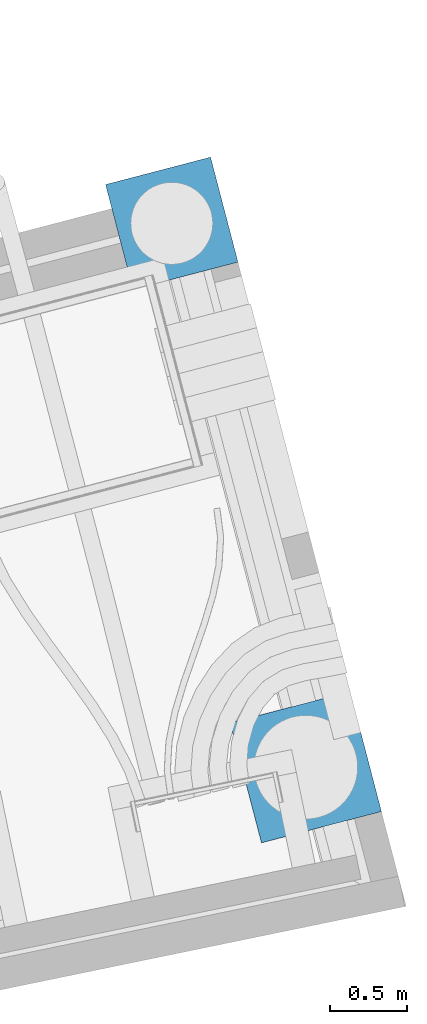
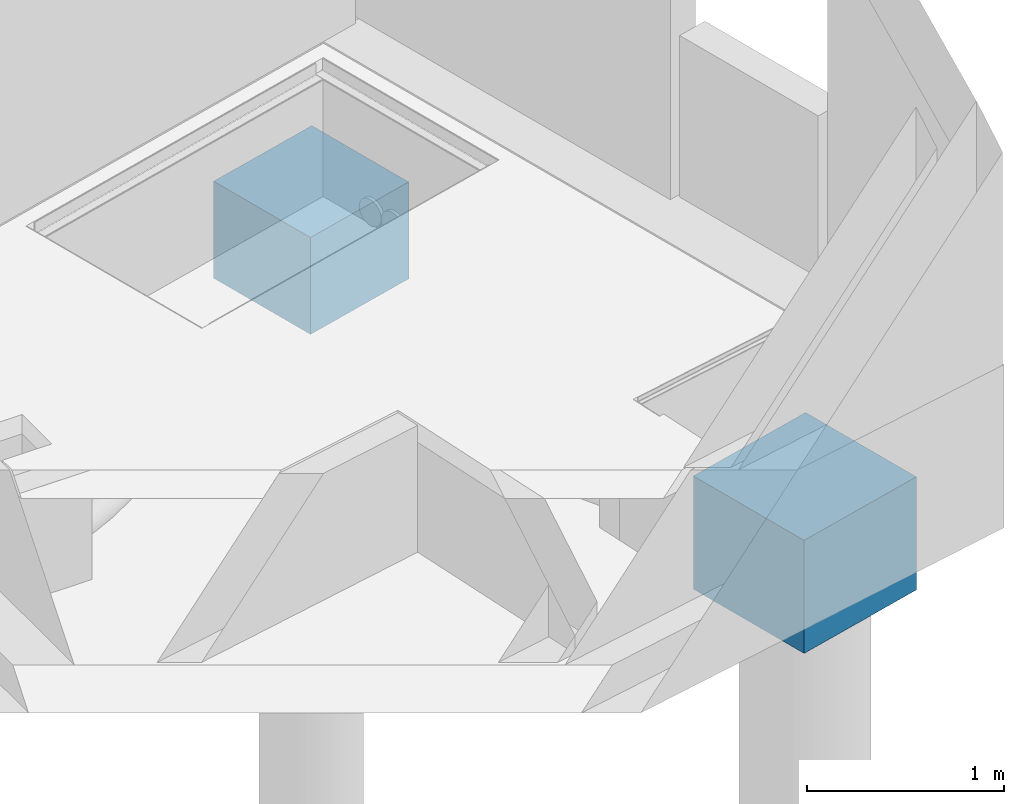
# One storey, part 13 of 29: 2 slabs.
"""IFC2X3 building model written with IfcOpenShell, lengths in centimetres."""

from ifc_helpers import new_model, entity, si_unit, converted_unit, derived_unit, direction, frame, origin, place, context, subcontext, project, spatial, faceted_brep, material, element, save


model = new_model("IFC2X3")

# Units and contexts
model_context = context("Model", 3, precision=0.001, world=origin(), true_north=direction((6.12303176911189e-17, 1.0)))
body_context = subcontext(model_context, "Body", "Model", "MODEL_VIEW")
ifc_project = project(units=[si_unit("LENGTHUNIT", "METRE", prefix="CENTI"), si_unit("AREAUNIT", "SQUARE_METRE"), si_unit("VOLUMEUNIT", "CUBIC_METRE"), converted_unit("PLANEANGLEUNIT", "DEGREE", entity("IfcRatioMeasure", 0.0174532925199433), si_unit("PLANEANGLEUNIT", "RADIAN"), dimensions=[0, 0, 0, 0, 0, 0, 0]), si_unit("MASSUNIT", "GRAM", prefix="KILO"), derived_unit("MASSDENSITYUNIT", [(si_unit("MASSUNIT", "GRAM", prefix="KILO"), 1), (si_unit("LENGTHUNIT", "METRE"), -3)]), si_unit("TIMEUNIT", "SECOND"), si_unit("FREQUENCYUNIT", "HERTZ"), si_unit("THERMODYNAMICTEMPERATUREUNIT", "DEGREE_CELSIUS"), derived_unit("THERMALTRANSMITTANCEUNIT", [(si_unit("MASSUNIT", "GRAM", prefix="KILO"), 1), (si_unit("THERMODYNAMICTEMPERATUREUNIT", "KELVIN"), -1), (si_unit("TIMEUNIT", "SECOND"), -3)]), derived_unit("VOLUMETRICFLOWRATEUNIT", [(si_unit("LENGTHUNIT", "METRE"), 3), (si_unit("TIMEUNIT", "SECOND"), -1)]), si_unit("ELECTRICCURRENTUNIT", "AMPERE"), si_unit("ELECTRICVOLTAGEUNIT", "VOLT"), si_unit("POWERUNIT", "WATT"), si_unit("FORCEUNIT", "NEWTON"), si_unit("ILLUMINANCEUNIT", "LUX"), si_unit("LUMINOUSFLUXUNIT", "LUMEN"), si_unit("LUMINOUSINTENSITYUNIT", "CANDELA"), derived_unit("USERDEFINED", [(si_unit("MASSUNIT", "GRAM", prefix="KILO"), -1), (si_unit("LENGTHUNIT", "METRE"), -2), (si_unit("TIMEUNIT", "SECOND"), 3), (si_unit("LUMINOUSFLUXUNIT", "LUMEN"), 1)]), derived_unit("LINEARVELOCITYUNIT", [(si_unit("LENGTHUNIT", "METRE"), 1), (si_unit("TIMEUNIT", "SECOND"), -1)]), si_unit("PRESSUREUNIT", "PASCAL"), derived_unit("USERDEFINED", [(si_unit("LENGTHUNIT", "METRE"), -2), (si_unit("MASSUNIT", "GRAM", prefix="KILO"), 1), (si_unit("TIMEUNIT", "SECOND"), -2)])], contexts=[model_context])

# Site, building, storey
site_placement = place(None, origin())
site = spatial("IfcSite", under=ifc_project, at=site_placement, Name="Default", CompositionType="ELEMENT")
building_placement = place(site_placement, origin())
building = spatial("IfcBuilding", under=site, at=building_placement, Name="CAGE 03", CompositionType="ELEMENT")
storey_placement = place(building_placement, frame((0.0, 0.0, -34.0)))
storey = spatial("IfcBuildingStorey", under=building, at=storey_placement, Name="+3.66", CompositionType="ELEMENT", Elevation=-34.0000000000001)

# Slabs
ifc_material = material(Name="Béton, C25/30")
slab_1_placement = place(storey_placement, frame((11535.6365583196, 3869.78541940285, -161.0)))
element("IfcSlab", 1, at=slab_1_placement, inside=storey, material=ifc_material, Name="M_Base-Rectangulaire:70x70x60ht", ObjectType="M_Base-Rectangulaire:70x70x60ht", PredefinedType="BASESLAB", context=body_context, shape_type="Brep", body=[
    faceted_brep([(67.7284989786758, 85.4160772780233, 60.0), (0.0, 67.7284989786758, 60.0), (17.6875782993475, 0.0, 60.0), (85.4160772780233, 17.6875782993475, 60.0), (71.7713740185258, 69.9352775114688, 60.0), (17.6875782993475, 0.0, 0.0), (24.976077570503, 23.0147007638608, 0.0), (30.1015689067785, 21.3493276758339, 0.0), (35.227060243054, 19.6839545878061, 0.0), (40.3525515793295, 18.0185814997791, 0.0), (45.478042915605, 16.3532084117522, 0.0), (85.4160772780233, 17.6875782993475, 0.0), (22.784067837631, 27.9380352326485, 0.0), (20.592058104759, 32.8613697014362, 0.0), (18.4000483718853, 37.7847041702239, 0.0), (16.2080386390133, 42.7080386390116, 0.0), (0.0, 67.7284989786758, 0.0), (18.7385634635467, 50.496193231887, 0.0), (21.2690882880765, 58.2843478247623, 0.0), (25.9363248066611, 60.9789780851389, 0.0), (30.6035613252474, 63.6736083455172, 0.0), (35.2707978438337, 66.3682386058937, 0.0), (39.93803436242, 69.0628688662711, 0.0), (67.7284989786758, 85.4160772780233, 0.0), (69.2080386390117, 42.7080386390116, 0.0), (67.0160289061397, 47.6313731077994, 0.0), (45.0635256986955, 67.3974957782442, 0.0), (50.189017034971, 65.7321226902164, 0.0), (55.3145083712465, 64.0667496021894, 0.0), (60.439999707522, 62.4013765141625, 0.0), (64.824019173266, 52.5547075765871, 0.0), (62.6320094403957, 57.4780420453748, 0.0), (50.1452794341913, 19.0478386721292, 0.0), (54.8125159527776, 21.7424689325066, 0.0), (59.4797524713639, 24.4370991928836, 0.0), (64.1469889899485, 27.131729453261, 0.0), (66.6775138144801, 34.9198840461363, 0.0), (16.2080386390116, 42.7080386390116, 5.0), (18.4000483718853, 47.6313731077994, 5.0), (20.5920581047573, 52.5547075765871, 5.0), (22.7840678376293, 57.4780420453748, 5.0), (24.9760775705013, 62.4013765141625, 5.0), (30.1015689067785, 64.0667496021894, 5.0), (35.227060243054, 65.7321226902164, 5.0), (40.3525515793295, 67.3974957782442, 5.0), (45.478042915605, 69.0628688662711, 5.0), (50.1452794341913, 66.3682386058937, 5.0), (54.8125159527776, 63.6736083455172, 5.0), (59.4797524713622, 60.9789780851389, 5.0), (64.1469889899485, 58.2843478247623, 5.0), (66.6775138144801, 50.496193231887, 5.0), (69.2080386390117, 42.7080386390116, 5.0), (67.0160289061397, 37.7847041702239, 5.0), (64.824019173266, 32.8613697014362, 5.0), (62.632009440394, 27.9380352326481, 5.0), (60.439999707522, 23.0147007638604, 5.0), (55.3145083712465, 21.3493276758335, 5.0), (50.189017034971, 19.6839545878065, 5.0), (45.0635256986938, 18.0185814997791, 5.0), (39.9380343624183, 16.3532084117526, 5.0), (35.2707978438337, 19.0478386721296, 5.0), (30.6035613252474, 21.742468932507, 5.0), (25.9363248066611, 24.437099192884, 5.0), (21.2690882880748, 27.131729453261, 5.0), (18.7385634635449, 34.9198840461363, 5.0)], [[[0, 1, 2, 3, 4]], [[5, 6, 7]], [[5, 7, 8]], [[5, 8, 9]], [[5, 9, 10]], [[5, 10, 11]], [[5, 12, 6]], [[5, 13, 12]], [[5, 14, 13]], [[5, 15, 14]], [[16, 15, 5]], [[16, 17, 15]], [[16, 18, 17]], [[16, 19, 18]], [[16, 20, 19]], [[16, 21, 20]], [[16, 22, 21]], [[23, 22, 16]], [[11, 24, 23]], [[23, 24, 25]], [[23, 26, 22]], [[23, 27, 26]], [[23, 28, 27]], [[23, 29, 28]], [[23, 25, 30]], [[23, 30, 31]], [[23, 31, 29]], [[11, 10, 32]], [[11, 32, 33]], [[11, 33, 34]], [[11, 34, 35]], [[11, 35, 36]], [[11, 36, 24]], [[2, 1, 16, 5]], [[3, 2, 5, 11]], [[4, 3, 11, 23, 0]], [[1, 0, 23, 16]], [[37, 38, 39, 40, 41, 42, 43, 44, 45, 46, 47, 48, 49, 50, 51, 52, 53, 54, 55, 56, 57, 58, 59, 60, 61, 62, 63, 64]], [[12, 13, 63]], [[64, 14, 37]], [[64, 63, 13]], [[63, 62, 12]], [[36, 35, 53]], [[60, 59, 8]], [[37, 14, 15]], [[33, 56, 34]], [[7, 6, 61]], [[35, 34, 55]], [[36, 52, 24]], [[8, 59, 9]], [[61, 6, 62]], [[13, 14, 64]], [[58, 9, 59]], [[62, 6, 12]], [[57, 56, 33]], [[7, 60, 8]], [[55, 34, 56]], [[54, 53, 35, 55]], [[58, 10, 9]], [[32, 10, 57, 33]], [[7, 61, 60]], [[51, 24, 52]], [[58, 57, 10]], [[36, 53, 52]], [[31, 30, 49]], [[50, 25, 51]], [[50, 49, 30]], [[49, 48, 31]], [[47, 29, 48]], [[46, 28, 47]], [[51, 25, 24]], [[22, 44, 21]], [[46, 45, 27]], [[40, 39, 18, 41]], [[17, 38, 15]], [[27, 45, 26]], [[30, 25, 50]], [[44, 22, 26]], [[48, 29, 31]], [[43, 42, 20]], [[28, 29, 47]], [[17, 18, 39]], [[46, 27, 28]], [[37, 15, 38]], [[43, 21, 44]], [[41, 19, 42]], [[20, 42, 19]], [[41, 18, 19]], [[44, 26, 45]], [[43, 20, 21]], [[17, 39, 38]]]),
])
slab_2_placement = place(storey_placement, frame((11616.0123316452, 3512.76273738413, -171.0)))
element("IfcSlab", 2, at=slab_2_placement, inside=storey, material=ifc_material, Name="M_Base-Rectangulaire:80x80x70ht", ObjectType="M_Base-Rectangulaire:80x80x70ht", PredefinedType="BASESLAB", context=body_context, shape_type="Brep", body=[
    faceted_brep([(77.4039988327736, 97.6183740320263, 70.0), (0.0, 77.4039988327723, 70.0), (20.2143751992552, 0.0, 70.0), (97.6183740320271, 20.2143751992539, 70.0), (20.2143751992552, 0.0, 0.0), (24.0523882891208, 26.2403829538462, 0.0), (31.0143354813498, 23.5433102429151, 0.0), (37.9762826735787, 20.8462375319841, 0.0), (44.938229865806, 18.149164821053, 0.0), (51.9001770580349, 15.452092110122, 0.0), (97.6183740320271, 20.2143751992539, 0.0), (21.8665879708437, 31.8825839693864, 0.0), (19.6807876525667, 37.5247849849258, 0.0), (17.4949873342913, 43.166986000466, 0.0), (15.3091870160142, 48.8091870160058, 0.0), (0.0, 77.4039988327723, 0.0), (17.4949873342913, 54.4513880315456, 0.0), (19.6807876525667, 60.0935890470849, 0.0), (21.8665879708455, 65.7357900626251, 0.0), (24.0523882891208, 71.3779910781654, 0.0), (29.4688404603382, 74.0750637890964, 0.0), (34.8852926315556, 76.7721365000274, 0.0), (40.3017448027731, 79.4692092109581, 0.0), (45.7181969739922, 82.1662819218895, 0.0), (77.4039988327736, 97.6183740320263, 0.0), (82.3091870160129, 48.8091870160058, 0.0), (80.1233866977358, 54.4513880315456, 0.0), (52.6801441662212, 79.4692092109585, 0.0), (59.6420913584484, 76.7721365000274, 0.0), (66.6040385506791, 74.0750637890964, 0.0), (73.5659857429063, 71.3779910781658, 0.0), (77.9375863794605, 60.0935890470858, 0.0), (75.7517860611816, 65.7357900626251, 0.0), (57.3166292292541, 18.149164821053, 0.0), (62.7330814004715, 20.8462375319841, 0.0), (68.1495335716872, 23.5433102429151, 0.0), (73.5659857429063, 26.2403829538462, 0.0), (75.7517860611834, 31.882583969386, 0.0), (77.9375863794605, 37.5247849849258, 0.0), (80.1233866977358, 43.166986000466, 0.0), (73.5659857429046, 26.2403829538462, 5.0), (66.6040385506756, 23.5433102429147, 5.0), (59.6420913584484, 20.8462375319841, 5.0), (52.6801441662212, 18.1491648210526, 5.0), (45.7181969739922, 15.452092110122, 5.0), (40.3017448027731, 18.149164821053, 5.0), (34.8852926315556, 20.8462375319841, 5.0), (29.4688404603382, 23.5433102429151, 5.0), (24.0523882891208, 26.2403829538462, 5.0), (21.8665879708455, 31.882583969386, 5.0), (19.6807876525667, 37.5247849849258, 5.0), (18.1297423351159, 41.5284944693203, 5.0), (15.3091870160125, 48.8091870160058, 5.0), (18.1297423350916, 56.0898795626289, 5.0), (19.6807876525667, 60.0935890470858, 5.0), (21.8665879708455, 65.735790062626, 5.0), (24.0523882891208, 71.3779910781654, 5.0), (31.0143354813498, 74.0750637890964, 5.0), (37.9762826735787, 76.7721365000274, 5.0), (44.938229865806, 79.4692092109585, 5.0), (51.9001770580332, 82.1662819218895, 5.0), (57.3166292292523, 79.4692092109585, 5.0), (62.7330814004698, 76.7721365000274, 5.0), (68.1495335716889, 74.0750637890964, 5.0), (73.5659857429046, 71.3779910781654, 5.0), (75.7517860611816, 65.7357900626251, 5.0), (77.9375863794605, 60.0935890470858, 5.0), (79.4886316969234, 56.0898795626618, 5.0), (82.3091870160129, 48.8091870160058, 5.0), (79.4886316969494, 41.528494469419, 5.0), (77.9375863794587, 37.5247849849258, 5.0), (75.7517860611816, 31.8825839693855, 5.0)], [[[0, 1, 2, 3]], [[4, 5, 6]], [[4, 6, 7]], [[4, 7, 8]], [[4, 8, 9]], [[4, 9, 10]], [[4, 11, 5]], [[4, 12, 11]], [[4, 13, 12]], [[4, 14, 13]], [[15, 14, 4]], [[15, 16, 14]], [[15, 17, 16]], [[15, 18, 17]], [[15, 19, 18]], [[15, 20, 19]], [[15, 21, 20]], [[15, 22, 21]], [[15, 23, 22]], [[24, 23, 15]], [[10, 25, 24]], [[24, 25, 26]], [[24, 27, 23]], [[24, 28, 27]], [[24, 29, 28]], [[24, 30, 29]], [[24, 26, 31]], [[24, 31, 32]], [[24, 32, 30]], [[10, 9, 33]], [[10, 33, 34]], [[10, 34, 35]], [[10, 35, 36]], [[10, 36, 37]], [[10, 37, 38]], [[10, 38, 39]], [[10, 39, 25]], [[2, 1, 15, 4]], [[3, 2, 4, 10]], [[0, 3, 10, 24]], [[1, 0, 24, 15]], [[40, 41, 42, 43, 44, 45, 46, 47, 48, 49, 50, 51, 52, 53, 54, 55, 56, 57, 58, 59, 60, 61, 62, 63, 64, 65, 66, 67, 68, 69, 70, 71]], [[13, 14, 52, 51, 50, 49, 48, 5, 11, 12]], [[39, 38, 37, 36, 40, 71, 70, 69, 68, 25]], [[48, 47, 5]], [[47, 46, 6]], [[36, 35, 40]], [[42, 33, 43]], [[35, 41, 40]], [[9, 8, 44]], [[7, 6, 46]], [[47, 6, 5]], [[35, 34, 41]], [[41, 34, 42]], [[7, 45, 8]], [[9, 43, 33]], [[42, 34, 33]], [[44, 8, 45]], [[7, 46, 45]], [[9, 44, 43]], [[26, 25, 68, 67, 66, 65, 64, 30, 32, 31]], [[16, 17, 18, 19, 56, 55, 54, 53, 52, 14]], [[64, 63, 30]], [[63, 62, 29]], [[19, 20, 56]], [[58, 22, 59]], [[20, 57, 56]], [[23, 27, 60]], [[28, 29, 62]], [[63, 29, 30]], [[20, 21, 57]], [[57, 21, 58]], [[28, 61, 27]], [[23, 59, 22]], [[58, 21, 22]], [[60, 27, 61]], [[28, 62, 61]], [[23, 60, 59]]]),
])

save(model, "model.ifc")
